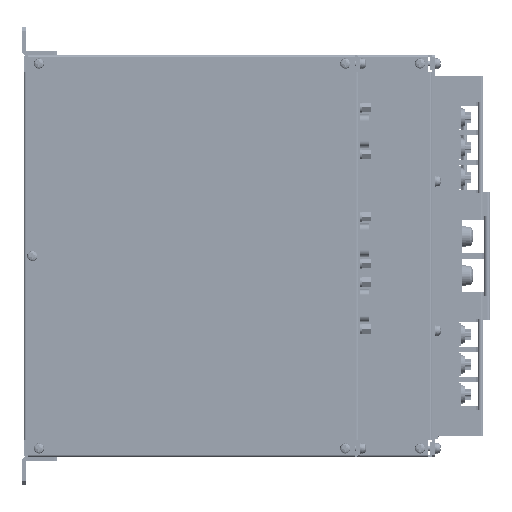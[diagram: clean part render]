
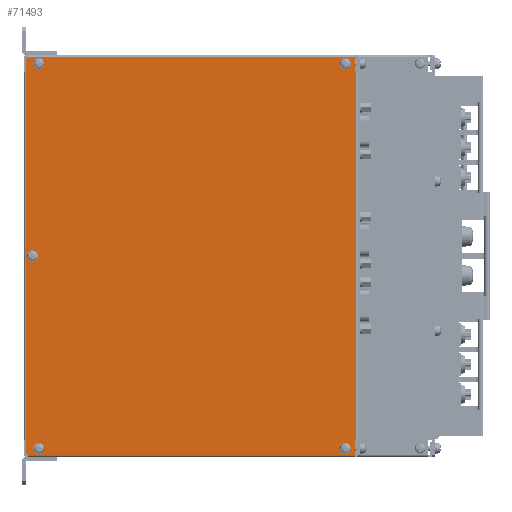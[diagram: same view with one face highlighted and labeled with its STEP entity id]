
A CAD part, left-side view. The second image highlights one B-rep face of the part: STEP entity #71493.
In plain terms, the highlighted planar face has unit normal (-1, 0, 0).
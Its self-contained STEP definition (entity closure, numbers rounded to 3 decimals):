
#71306=CARTESIAN_POINT('',(-95.,0.,0.));
#71307=DIRECTION('',(-1.,0.,0.));
#71308=DIRECTION('',(0.,-1.,0.));
#71309=AXIS2_PLACEMENT_3D('',#71306,#71307,#71308);
#71310=PLANE('',#71309);
#71311=CARTESIAN_POINT('',(-95.,-170.25,103.));
#71312=VERTEX_POINT('',#71311);
#71313=CARTESIAN_POINT('',(-95.,-173.75,103.));
#71314=VERTEX_POINT('',#71313);
#71315=CARTESIAN_POINT('',(-95.,-172.,103.));
#71316=DIRECTION('',(-1.,0.,0.));
#71317=DIRECTION('',(0.,-1.,0.));
#71318=AXIS2_PLACEMENT_3D('',#71315,#71316,#71317);
#71319=CIRCLE('',#71318,1.75);
#71320=EDGE_CURVE('',#71312,#71314,#71319,.T.);
#71321=ORIENTED_EDGE('',*,*,#71320,.F.);
#71322=CARTESIAN_POINT('',(-95.,-172.,103.));
#71323=DIRECTION('',(-1.,0.,0.));
#71324=DIRECTION('',(0.,-1.,0.));
#71325=AXIS2_PLACEMENT_3D('',#71322,#71323,#71324);
#71326=CIRCLE('',#71325,1.75);
#71327=EDGE_CURVE('',#71314,#71312,#71326,.T.);
#71328=ORIENTED_EDGE('',*,*,#71327,.F.);
#71329=EDGE_LOOP('',(#71321,#71328));
#71330=FACE_BOUND('',#71329,.T.);
#71331=CARTESIAN_POINT('',(-95.,-6.25,-103.));
#71332=VERTEX_POINT('',#71331);
#71333=CARTESIAN_POINT('',(-95.,-9.75,-103.));
#71334=VERTEX_POINT('',#71333);
#71335=CARTESIAN_POINT('',(-95.,-8.,-103.));
#71336=DIRECTION('',(-1.,0.,0.));
#71337=DIRECTION('',(0.,-1.,0.));
#71338=AXIS2_PLACEMENT_3D('',#71335,#71336,#71337);
#71339=CIRCLE('',#71338,1.75);
#71340=EDGE_CURVE('',#71332,#71334,#71339,.T.);
#71341=ORIENTED_EDGE('',*,*,#71340,.F.);
#71342=CARTESIAN_POINT('',(-95.,-8.,-103.));
#71343=DIRECTION('',(-1.,0.,0.));
#71344=DIRECTION('',(0.,-1.,0.));
#71345=AXIS2_PLACEMENT_3D('',#71342,#71343,#71344);
#71346=CIRCLE('',#71345,1.75);
#71347=EDGE_CURVE('',#71334,#71332,#71346,.T.);
#71348=ORIENTED_EDGE('',*,*,#71347,.F.);
#71349=EDGE_LOOP('',(#71341,#71348));
#71350=FACE_BOUND('',#71349,.T.);
#71351=CARTESIAN_POINT('',(-95.,-177.,-98.5));
#71352=VERTEX_POINT('',#71351);
#71353=CARTESIAN_POINT('',(-95.,-178.,-98.5));
#71354=VERTEX_POINT('',#71353);
#71355=CARTESIAN_POINT('',(-95.,-177.,-98.5));
#71356=DIRECTION('',(0.,-1.,0.));
#71357=VECTOR('',#71356,1.);
#71358=LINE('',#71355,#71357);
#71359=EDGE_CURVE('',#71352,#71354,#71358,.T.);
#71360=ORIENTED_EDGE('',*,*,#71359,.T.);
#71361=CARTESIAN_POINT('',(-95.,-178.,98.5));
#71362=VERTEX_POINT('',#71361);
#71363=CARTESIAN_POINT('',(-95.,-178.,-98.5));
#71364=DIRECTION('',(0.,0.,1.));
#71365=VECTOR('',#71364,197.);
#71366=LINE('',#71363,#71365);
#71367=EDGE_CURVE('',#71354,#71362,#71366,.T.);
#71368=ORIENTED_EDGE('',*,*,#71367,.T.);
#71369=CARTESIAN_POINT('',(-95.,-177.,98.5));
#71370=VERTEX_POINT('',#71369);
#71371=CARTESIAN_POINT('',(-95.,-178.,98.5));
#71372=DIRECTION('',(0.,1.,0.));
#71373=VECTOR('',#71372,1.);
#71374=LINE('',#71371,#71373);
#71375=EDGE_CURVE('',#71362,#71370,#71374,.T.);
#71376=ORIENTED_EDGE('',*,*,#71375,.T.);
#71377=CARTESIAN_POINT('',(-95.,-177.,106.5));
#71378=VERTEX_POINT('',#71377);
#71379=CARTESIAN_POINT('',(-95.,-177.,98.5));
#71380=DIRECTION('',(0.,0.,1.));
#71381=VECTOR('',#71380,8.);
#71382=LINE('',#71379,#71381);
#71383=EDGE_CURVE('',#71370,#71378,#71382,.T.);
#71384=ORIENTED_EDGE('',*,*,#71383,.T.);
#71385=CARTESIAN_POINT('',(-95.,-2.,106.5));
#71386=VERTEX_POINT('',#71385);
#71387=CARTESIAN_POINT('',(-95.,-177.,106.5));
#71388=DIRECTION('',(0.,1.,0.));
#71389=VECTOR('',#71388,175.);
#71390=LINE('',#71387,#71389);
#71391=EDGE_CURVE('',#71378,#71386,#71390,.T.);
#71392=ORIENTED_EDGE('',*,*,#71391,.T.);
#71393=CARTESIAN_POINT('',(-95.,-1.,105.5));
#71394=VERTEX_POINT('',#71393);
#71395=CARTESIAN_POINT('',(-95.,-2.,106.5));
#71396=DIRECTION('',(0.,0.707,-0.707));
#71397=VECTOR('',#71396,1.414);
#71398=LINE('',#71395,#71397);
#71399=EDGE_CURVE('',#71386,#71394,#71398,.T.);
#71400=ORIENTED_EDGE('',*,*,#71399,.T.);
#71401=CARTESIAN_POINT('',(-95.,-1.,-105.5));
#71402=VERTEX_POINT('',#71401);
#71403=CARTESIAN_POINT('',(-95.,-1.,105.5));
#71404=DIRECTION('',(0.,0.,-1.));
#71405=VECTOR('',#71404,211.);
#71406=LINE('',#71403,#71405);
#71407=EDGE_CURVE('',#71394,#71402,#71406,.T.);
#71408=ORIENTED_EDGE('',*,*,#71407,.T.);
#71409=CARTESIAN_POINT('',(-95.,-2.,-106.5));
#71410=VERTEX_POINT('',#71409);
#71411=CARTESIAN_POINT('',(-95.,-1.,-105.5));
#71412=DIRECTION('',(0.,-0.707,-0.707));
#71413=VECTOR('',#71412,1.414);
#71414=LINE('',#71411,#71413);
#71415=EDGE_CURVE('',#71402,#71410,#71414,.T.);
#71416=ORIENTED_EDGE('',*,*,#71415,.T.);
#71417=CARTESIAN_POINT('',(-95.,-177.,-106.5));
#71418=VERTEX_POINT('',#71417);
#71419=CARTESIAN_POINT('',(-95.,-2.,-106.5));
#71420=DIRECTION('',(0.,-1.,0.));
#71421=VECTOR('',#71420,175.);
#71422=LINE('',#71419,#71421);
#71423=EDGE_CURVE('',#71410,#71418,#71422,.T.);
#71424=ORIENTED_EDGE('',*,*,#71423,.T.);
#71425=CARTESIAN_POINT('',(-95.,-177.,-106.5));
#71426=DIRECTION('',(0.,0.,1.));
#71427=VECTOR('',#71426,8.);
#71428=LINE('',#71425,#71427);
#71429=EDGE_CURVE('',#71418,#71352,#71428,.T.);
#71430=ORIENTED_EDGE('',*,*,#71429,.T.);
#71431=EDGE_LOOP('',(#71360,#71368,#71376,#71384,#71392,#71400,#71408,#71416,#71424,#71430));
#71432=FACE_BOUND('',#71431,.T.);
#71433=CARTESIAN_POINT('',(-95.,-170.25,-103.));
#71434=VERTEX_POINT('',#71433);
#71435=CARTESIAN_POINT('',(-95.,-173.75,-103.));
#71436=VERTEX_POINT('',#71435);
#71437=CARTESIAN_POINT('',(-95.,-172.,-103.));
#71438=DIRECTION('',(-1.,0.,0.));
#71439=DIRECTION('',(0.,-1.,0.));
#71440=AXIS2_PLACEMENT_3D('',#71437,#71438,#71439);
#71441=CIRCLE('',#71440,1.75);
#71442=EDGE_CURVE('',#71434,#71436,#71441,.T.);
#71443=ORIENTED_EDGE('',*,*,#71442,.F.);
#71444=CARTESIAN_POINT('',(-95.,-172.,-103.));
#71445=DIRECTION('',(-1.,0.,0.));
#71446=DIRECTION('',(0.,-1.,0.));
#71447=AXIS2_PLACEMENT_3D('',#71444,#71445,#71446);
#71448=CIRCLE('',#71447,1.75);
#71449=EDGE_CURVE('',#71436,#71434,#71448,.T.);
#71450=ORIENTED_EDGE('',*,*,#71449,.F.);
#71451=EDGE_LOOP('',(#71443,#71450));
#71452=FACE_BOUND('',#71451,.T.);
#71453=CARTESIAN_POINT('',(-95.,-6.25,103.));
#71454=VERTEX_POINT('',#71453);
#71455=CARTESIAN_POINT('',(-95.,-9.75,103.));
#71456=VERTEX_POINT('',#71455);
#71457=CARTESIAN_POINT('',(-95.,-8.,103.));
#71458=DIRECTION('',(-1.,0.,0.));
#71459=DIRECTION('',(0.,-1.,0.));
#71460=AXIS2_PLACEMENT_3D('',#71457,#71458,#71459);
#71461=CIRCLE('',#71460,1.75);
#71462=EDGE_CURVE('',#71454,#71456,#71461,.T.);
#71463=ORIENTED_EDGE('',*,*,#71462,.F.);
#71464=CARTESIAN_POINT('',(-95.,-8.,103.));
#71465=DIRECTION('',(-1.,0.,0.));
#71466=DIRECTION('',(0.,-1.,0.));
#71467=AXIS2_PLACEMENT_3D('',#71464,#71465,#71466);
#71468=CIRCLE('',#71467,1.75);
#71469=EDGE_CURVE('',#71456,#71454,#71468,.T.);
#71470=ORIENTED_EDGE('',*,*,#71469,.F.);
#71471=EDGE_LOOP('',(#71463,#71470));
#71472=FACE_BOUND('',#71471,.T.);
#71473=CARTESIAN_POINT('',(-95.,-2.75,-0.));
#71474=VERTEX_POINT('',#71473);
#71475=CARTESIAN_POINT('',(-95.,-6.25,-0.));
#71476=VERTEX_POINT('',#71475);
#71477=CARTESIAN_POINT('',(-95.,-4.5,-0.));
#71478=DIRECTION('',(-1.,0.,0.));
#71479=DIRECTION('',(0.,-1.,0.));
#71480=AXIS2_PLACEMENT_3D('',#71477,#71478,#71479);
#71481=CIRCLE('',#71480,1.75);
#71482=EDGE_CURVE('',#71474,#71476,#71481,.T.);
#71483=ORIENTED_EDGE('',*,*,#71482,.F.);
#71484=CARTESIAN_POINT('',(-95.,-4.5,-0.));
#71485=DIRECTION('',(-1.,0.,0.));
#71486=DIRECTION('',(0.,-1.,0.));
#71487=AXIS2_PLACEMENT_3D('',#71484,#71485,#71486);
#71488=CIRCLE('',#71487,1.75);
#71489=EDGE_CURVE('',#71476,#71474,#71488,.T.);
#71490=ORIENTED_EDGE('',*,*,#71489,.F.);
#71491=EDGE_LOOP('',(#71483,#71490));
#71492=FACE_BOUND('',#71491,.T.);
#71493=ADVANCED_FACE('',(#71330,#71350,#71432,#71452,#71472,#71492),#71310,.T.);
